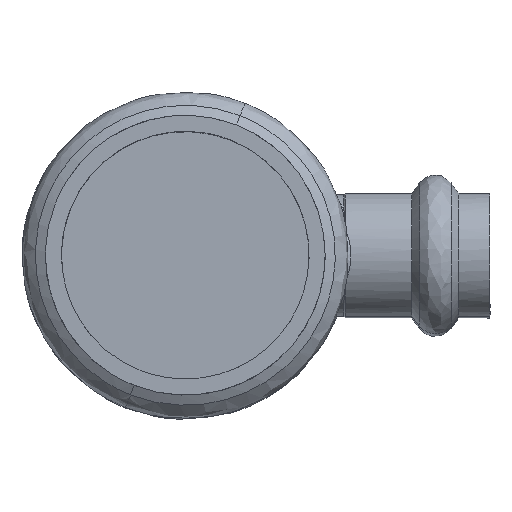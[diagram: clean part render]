
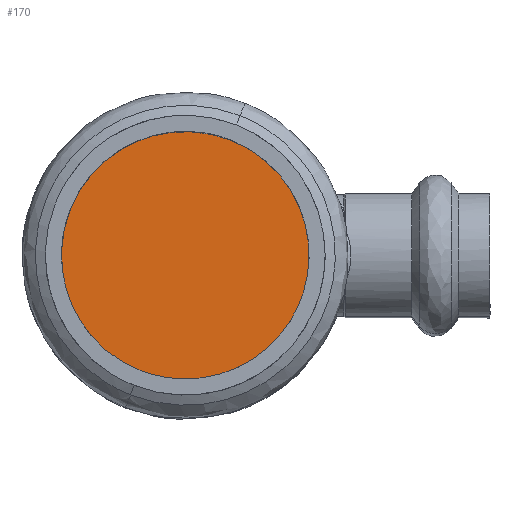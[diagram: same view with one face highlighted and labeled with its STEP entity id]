
A CAD part, top view. The second image highlights one B-rep face of the part: STEP entity #170.
In plain terms, the highlighted free-form (B-spline) face has degree [1, 1] with [2, 2] control points.
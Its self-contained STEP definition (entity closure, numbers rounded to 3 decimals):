
#170=ADVANCED_FACE('',(#346),#347,.T.);
#346=FACE_OUTER_BOUND('',#1222,.T.);
#347=B_SPLINE_SURFACE_WITH_KNOTS('',1,1,((#1223,#1224),(#1225,#1226)),.UNSPECIFIED.,.F.,.F.,.F.,(2,2),(2,2),(0.0,31.7),(0.0,31.7),.UNSPECIFIED.);
#1222=EDGE_LOOP('',(#1815,#1816,#1817));
#1223=CARTESIAN_POINT('',(-15.85,-15.85,14.75));
#1224=CARTESIAN_POINT('',(-15.85,15.85,14.75));
#1225=CARTESIAN_POINT('',(15.85,-15.85,14.75));
#1226=CARTESIAN_POINT('',(15.85,15.85,14.75));
#1815=ORIENTED_EDGE('',*,*,#2103,.T.);
#1816=ORIENTED_EDGE('',*,*,#1966,.T.);
#1817=ORIENTED_EDGE('',*,*,#2104,.T.);
#1966=EDGE_CURVE('',#2209,#2206,#2210,.T.);
#2103=EDGE_CURVE('',#2410,#2209,#2411,.T.);
#2104=EDGE_CURVE('',#2206,#2410,#2412,.T.);
#2206=VERTEX_POINT('',#2730);
#2209=VERTEX_POINT('',#2734);
#2210=(B_SPLINE_CURVE(2,(#2736,#2737,#2738,#2739,#2740),.UNSPECIFIED.,.F.,.F.)B_SPLINE_CURVE_WITH_KNOTS((3,2,3),(-1.571,0.,1.571),.UNSPECIFIED.)RATIONAL_B_SPLINE_CURVE((1.0,0.707,1.0,0.707,1.0))BOUNDED_CURVE()REPRESENTATION_ITEM('')GEOMETRIC_REPRESENTATION_ITEM()CURVE());
#2410=VERTEX_POINT('',#3399);
#2411=(B_SPLINE_CURVE(2,(#3401,#3402,#3403),.UNSPECIFIED.,.F.,.F.)B_SPLINE_CURVE_WITH_KNOTS((3,3),(-3.142,-1.571),.UNSPECIFIED.)RATIONAL_B_SPLINE_CURVE((1.0,0.707,1.0))BOUNDED_CURVE()REPRESENTATION_ITEM('')GEOMETRIC_REPRESENTATION_ITEM()CURVE());
#2412=(B_SPLINE_CURVE(2,(#3411,#3412,#3413),.UNSPECIFIED.,.F.,.F.)B_SPLINE_CURVE_WITH_KNOTS((3,3),(1.571,3.142),.UNSPECIFIED.)RATIONAL_B_SPLINE_CURVE((1.0,0.707,1.0))BOUNDED_CURVE()REPRESENTATION_ITEM('')GEOMETRIC_REPRESENTATION_ITEM()CURVE());
#2730=CARTESIAN_POINT('',(5.794,14.753,14.75));
#2734=CARTESIAN_POINT('',(-5.794,-14.753,14.75));
#2736=CARTESIAN_POINT('',(-5.794,-14.753,14.75));
#2737=CARTESIAN_POINT('',(8.96,-20.547,14.75));
#2738=CARTESIAN_POINT('',(14.753,-5.794,14.75));
#2739=CARTESIAN_POINT('',(20.547,8.96,14.75));
#2740=CARTESIAN_POINT('',(5.794,14.753,14.75));
#3399=CARTESIAN_POINT('',(-14.753,5.794,14.75));
#3401=CARTESIAN_POINT('',(-14.753,5.794,14.75));
#3402=CARTESIAN_POINT('',(-20.547,-8.96,14.75));
#3403=CARTESIAN_POINT('',(-5.794,-14.753,14.75));
#3411=CARTESIAN_POINT('',(5.794,14.753,14.75));
#3412=CARTESIAN_POINT('',(-8.96,20.547,14.75));
#3413=CARTESIAN_POINT('',(-14.753,5.794,14.75));
